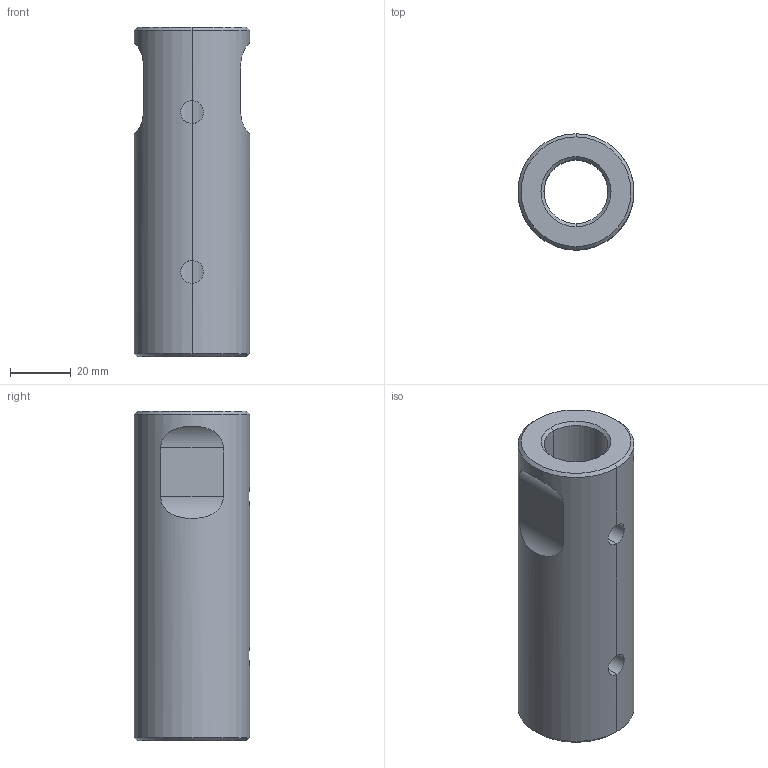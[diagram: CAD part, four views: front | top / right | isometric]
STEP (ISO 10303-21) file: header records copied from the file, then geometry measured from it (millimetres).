
FILE_DESCRIPTION (( 'STEP AP203' ), '1' );
FILE_NAME ('Spannschloss M24.STEP', '2018-02-22T09:59:56', ( 'install' ), ( 'Hewlett-Packard Company' ), 'SwSTEP 2.0', 'SolidWorks 2017', '' );
FILE_SCHEMA (( 'CONFIG_CONTROL_DESIGN' ));
Length unit declared in the file: millimetre
Products named in the file (1): Spannschloss M24
Bounding box: 38 x 38 x 108 mm (x, y, z)
Volume: 71215.7 mm3; surface area: 22779.7 mm2
Topology: 1 solids, 1 shells, 30 faces, 68 edges, 40 vertices
Faces by surface type: cylinder 16, cone 8, plane 6
Entity records: 1345 total; most frequent: CARTESIAN_POINT 591, DIRECTION 142, ORIENTED_EDGE 136, EDGE_CURVE 68, AXIS2_PLACEMENT_3D 55, VERTEX_POINT 40, EDGE_LOOP 36, VECTOR 32
